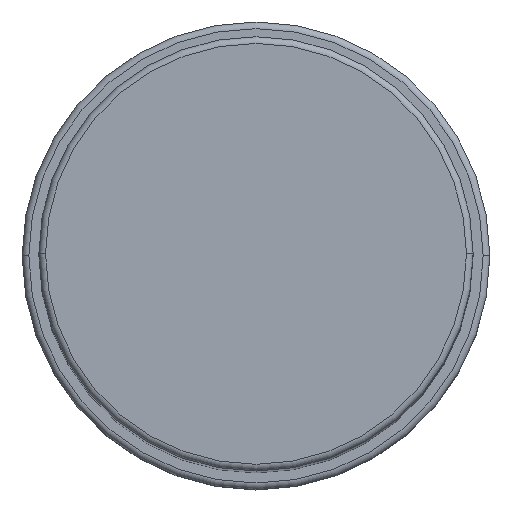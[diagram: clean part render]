
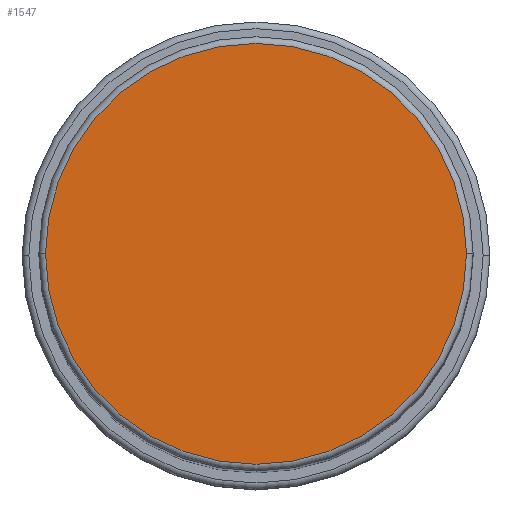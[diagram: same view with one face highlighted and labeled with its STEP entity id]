
A CAD part, top view. The second image highlights one B-rep face of the part: STEP entity #1547.
In plain terms, the highlighted planar face has unit normal (0, 0, 1).
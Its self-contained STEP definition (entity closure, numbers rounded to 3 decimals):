
#122 = AXIS2_PLACEMENT_3D ( 'NONE', #1410, #177, #853 ) ;
#177 = DIRECTION ( 'NONE',  ( 0., 0., 1. ) ) ;
#195 = CIRCLE ( 'NONE', #1107, 31.5 ) ;
#210 = CARTESIAN_POINT ( 'NONE',  ( -31.5, 0., 183. ) ) ;
#275 = EDGE_CURVE ( 'NONE', #1012, #624, #289, .T. ) ;
#289 = CIRCLE ( 'NONE', #600, 31.5 ) ;
#304 = PLANE ( 'NONE',  #122 ) ;
#596 = DIRECTION ( 'NONE',  ( 0., 0., 1. ) ) ;
#600 = AXIS2_PLACEMENT_3D ( 'NONE', #1440, #626, #1580 ) ;
#624 = VERTEX_POINT ( 'NONE', #210 ) ;
#626 = DIRECTION ( 'NONE',  ( 0., 0., 1. ) ) ;
#646 = EDGE_LOOP ( 'NONE', ( #1191, #849 ) ) ;
#684 = CARTESIAN_POINT ( 'NONE',  ( 31.5, 0., 183. ) ) ;
#711 = DIRECTION ( 'NONE',  ( 1., 0., 0. ) ) ;
#849 = ORIENTED_EDGE ( 'NONE', *, *, #1529, .T. ) ;
#853 = DIRECTION ( 'NONE',  ( 1., 0., 0. ) ) ;
#1012 = VERTEX_POINT ( 'NONE', #684 ) ;
#1107 = AXIS2_PLACEMENT_3D ( 'NONE', #1533, #596, #711 ) ;
#1191 = ORIENTED_EDGE ( 'NONE', *, *, #275, .T. ) ;
#1410 = CARTESIAN_POINT ( 'NONE',  ( 0., 0., 183. ) ) ;
#1440 = CARTESIAN_POINT ( 'NONE',  ( 0., 0., 183. ) ) ;
#1529 = EDGE_CURVE ( 'NONE', #624, #1012, #195, .T. ) ;
#1533 = CARTESIAN_POINT ( 'NONE',  ( 0., 0., 183. ) ) ;
#1547 = ADVANCED_FACE ( 'NONE', ( #1707 ), #304, .T. ) ;
#1580 = DIRECTION ( 'NONE',  ( 1., 0., 0. ) ) ;
#1707 = FACE_OUTER_BOUND ( 'NONE', #646, .T. ) ;
